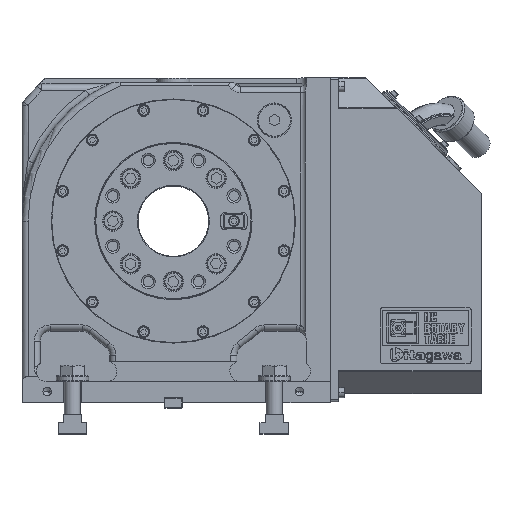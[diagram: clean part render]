
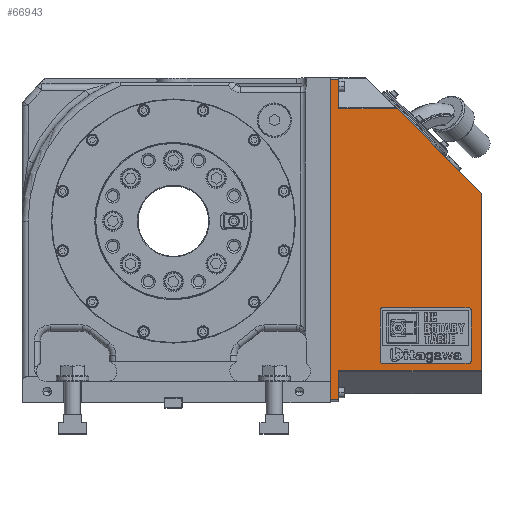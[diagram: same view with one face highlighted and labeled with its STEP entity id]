
A CAD part, top view. The second image highlights one B-rep face of the part: STEP entity #66943.
In plain terms, the highlighted planar face has unit normal (0, 0, 1) as drawn and (1, 0, 0) by its records, which use the part's own axes.
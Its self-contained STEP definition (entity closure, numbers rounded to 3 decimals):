
#955 = DIRECTION ( 'NONE',  ( 0., 0., -1. ) ) ;
#2151 = VECTOR ( 'NONE', #35492, 1000. ) ;
#3672 = LINE ( 'NONE', #72685, #98387 ) ;
#5637 = EDGE_CURVE ( 'NONE', #73337, #49725, #119090, .T. ) ;
#7308 = DIRECTION ( 'NONE',  ( 0., -1., 0. ) ) ;
#8674 = EDGE_CURVE ( 'NONE', #16101, #80448, #96143, .T. ) ;
#9516 = CARTESIAN_POINT ( 'NONE',  ( 0., 319., -8. ) ) ;
#11222 = ORIENTED_EDGE ( 'NONE', *, *, #28180, .T. ) ;
#11334 = CARTESIAN_POINT ( 'NONE',  ( 0., 321., -35. ) ) ;
#12515 = CARTESIAN_POINT ( 'NONE',  ( 0., 206.172, -149. ) ) ;
#13548 = CARTESIAN_POINT ( 'NONE',  ( 0., 0., -8. ) ) ;
#14865 = VECTOR ( 'NONE', #96421, 1000. ) ;
#16101 = VERTEX_POINT ( 'NONE', #32339 ) ;
#21897 = AXIS2_PLACEMENT_3D ( 'NONE', #47914, #111979, #57127 ) ;
#22034 = DIRECTION ( 'NONE',  ( 0., 0., 1. ) ) ;
#22812 = DIRECTION ( 'NONE',  ( 0., 1., 0. ) ) ;
#26669 = CARTESIAN_POINT ( 'NONE',  ( 0., 0., 0. ) ) ;
#27330 = EDGE_CURVE ( 'NONE', #81204, #40507, #75361, .T. ) ;
#28180 = EDGE_CURVE ( 'NONE', #16101, #32753, #91938, .T. ) ;
#28316 = CARTESIAN_POINT ( 'NONE',  ( 0., 2., -8. ) ) ;
#29889 = EDGE_CURVE ( 'NONE', #32407, #49725, #92658, .T. ) ;
#31717 = EDGE_LOOP ( 'NONE', ( #102513, #60884, #68184, #11222, #44065, #85381, #97107, #95376, #66543, #68802 ) ) ;
#32339 = CARTESIAN_POINT ( 'NONE',  ( 0., 290.172, -65.828 ) ) ;
#32345 = CARTESIAN_POINT ( 'NONE',  ( 0., 319., -8. ) ) ;
#32407 = VERTEX_POINT ( 'NONE', #12515 ) ;
#32753 = VERTEX_POINT ( 'NONE', #63805 ) ;
#35492 = DIRECTION ( 'NONE',  ( 0., 1., 0. ) ) ;
#40419 = VECTOR ( 'NONE', #22034, 1000. ) ;
#40507 = VERTEX_POINT ( 'NONE', #113882 ) ;
#42186 = CIRCLE ( 'NONE', #21897, 2. ) ;
#44065 = ORIENTED_EDGE ( 'NONE', *, *, #88132, .T. ) ;
#44401 = CARTESIAN_POINT ( 'NONE',  ( 0., 2., 0. ) ) ;
#45535 = VERTEX_POINT ( 'NONE', #9516 ) ;
#45934 = VECTOR ( 'NONE', #57549, 1000. ) ;
#46859 = VECTOR ( 'NONE', #7308, 1000. ) ;
#47914 = CARTESIAN_POINT ( 'NONE',  ( 0., 206.172, -147. ) ) ;
#47948 = CARTESIAN_POINT ( 'NONE',  ( 0., 30.828, -149. ) ) ;
#48433 = LINE ( 'NONE', #87808, #69899 ) ;
#49725 = VERTEX_POINT ( 'NONE', #104164 ) ;
#50156 = PLANE ( 'NONE',  #105294 ) ;
#51029 = CARTESIAN_POINT ( 'NONE',  ( 0., 207.586, -148.414 ) ) ;
#52556 = EDGE_CURVE ( 'NONE', #62995, #73337, #48433, .T. ) ;
#53271 = EDGE_CURVE ( 'NONE', #81204, #62995, #83229, .T. ) ;
#54301 = DIRECTION ( 'NONE',  ( 0., 1., 0. ) ) ;
#56773 = DIRECTION ( 'NONE',  ( 0., -0.707, -0.707 ) ) ;
#57127 = DIRECTION ( 'NONE',  ( 0., 1., 0. ) ) ;
#57549 = DIRECTION ( 'NONE',  ( 0., 0., -1. ) ) ;
#58924 = VECTOR ( 'NONE', #955, 1000. ) ;
#59054 = CARTESIAN_POINT ( 'NONE',  ( 0., 2., -8. ) ) ;
#60884 = ORIENTED_EDGE ( 'NONE', *, *, #75833, .T. ) ;
#62995 = VERTEX_POINT ( 'NONE', #59054 ) ;
#63805 = CARTESIAN_POINT ( 'NONE',  ( 0., 290.172, -8. ) ) ;
#66543 = ORIENTED_EDGE ( 'NONE', *, *, #52556, .T. ) ;
#66943 = ADVANCED_FACE ( 'NONE', ( #73015 ), #50156, .T. ) ;
#67744 = CARTESIAN_POINT ( 'NONE',  ( 0., 290.172, -8. ) ) ;
#68184 = ORIENTED_EDGE ( 'NONE', *, *, #8674, .F. ) ;
#68802 = ORIENTED_EDGE ( 'NONE', *, *, #5637, .T. ) ;
#69899 = VECTOR ( 'NONE', #105878, 1000. ) ;
#72685 = CARTESIAN_POINT ( 'NONE',  ( 0., 0., -8. ) ) ;
#73015 = FACE_OUTER_BOUND ( 'NONE', #31717, .T. ) ;
#73337 = VERTEX_POINT ( 'NONE', #74761 ) ;
#74761 = CARTESIAN_POINT ( 'NONE',  ( 0., 30.828, -8. ) ) ;
#75361 = LINE ( 'NONE', #26669, #2151 ) ;
#75833 = EDGE_CURVE ( 'NONE', #32407, #80448, #42186, .T. ) ;
#77758 = DIRECTION ( 'NONE',  ( 1., 0., 0. ) ) ;
#80448 = VERTEX_POINT ( 'NONE', #51029 ) ;
#80698 = CARTESIAN_POINT ( 'NONE',  ( 0., 291., -149. ) ) ;
#81204 = VERTEX_POINT ( 'NONE', #44401 ) ;
#83229 = LINE ( 'NONE', #28316, #58924 ) ;
#85126 = LINE ( 'NONE', #32345, #14865 ) ;
#85381 = ORIENTED_EDGE ( 'NONE', *, *, #112818, .T. ) ;
#87808 = CARTESIAN_POINT ( 'NONE',  ( 0., 0., -8. ) ) ;
#88132 = EDGE_CURVE ( 'NONE', #32753, #45535, #3672, .T. ) ;
#91938 = LINE ( 'NONE', #67744, #40419 ) ;
#92658 = LINE ( 'NONE', #80698, #46859 ) ;
#93265 = VECTOR ( 'NONE', #56773, 1000. ) ;
#95376 = ORIENTED_EDGE ( 'NONE', *, *, #53271, .T. ) ;
#96143 = LINE ( 'NONE', #11334, #93265 ) ;
#96421 = DIRECTION ( 'NONE',  ( 0., 0., 1. ) ) ;
#97107 = ORIENTED_EDGE ( 'NONE', *, *, #27330, .F. ) ;
#98387 = VECTOR ( 'NONE', #54301, 1000. ) ;
#102513 = ORIENTED_EDGE ( 'NONE', *, *, #29889, .F. ) ;
#104164 = CARTESIAN_POINT ( 'NONE',  ( 0., 30.828, -149. ) ) ;
#105294 = AXIS2_PLACEMENT_3D ( 'NONE', #13548, #77758, #22812 ) ;
#105878 = DIRECTION ( 'NONE',  ( 0., 1., 0. ) ) ;
#111979 = DIRECTION ( 'NONE',  ( 1., 0., 0. ) ) ;
#112818 = EDGE_CURVE ( 'NONE', #45535, #40507, #85126, .T. ) ;
#113882 = CARTESIAN_POINT ( 'NONE',  ( 0., 319., 0. ) ) ;
#119090 = LINE ( 'NONE', #47948, #45934 ) ;
